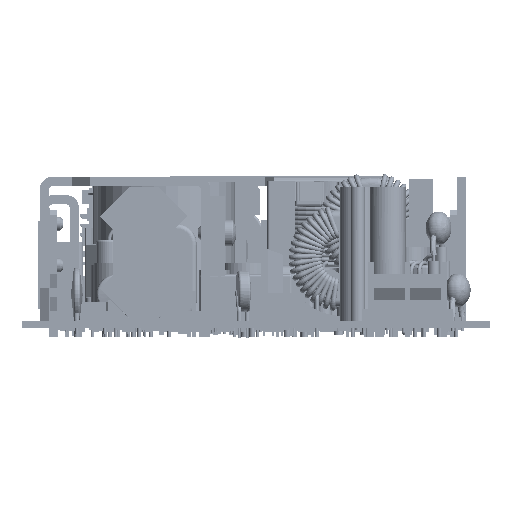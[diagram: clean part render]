
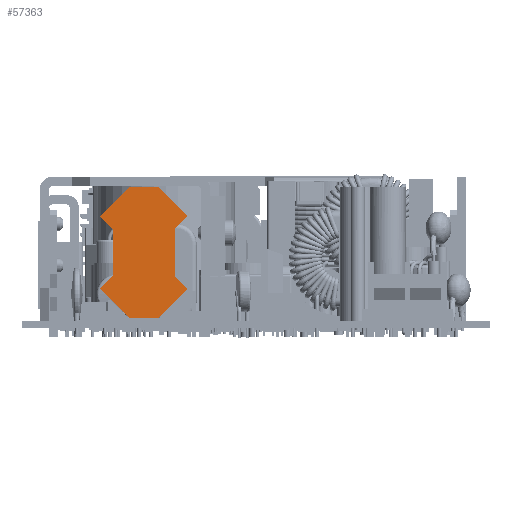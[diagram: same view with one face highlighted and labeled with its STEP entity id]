
A CAD part, left-side view. The second image highlights one B-rep face of the part: STEP entity #57363.
In plain terms, the highlighted planar face has unit normal (-1, 0, 0) as drawn and (0, 0, 1) by its records, which use the part's own axes.
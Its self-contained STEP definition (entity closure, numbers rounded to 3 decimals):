
#4585 = EDGE_CURVE ( 'NONE', #127076, #61434, #16035, .T. ) ;
#9040 = VECTOR ( 'NONE', #190603, 1000. ) ;
#10621 = LINE ( 'NONE', #192542, #150344 ) ;
#11301 = VERTEX_POINT ( 'NONE', #170077 ) ;
#13036 = CARTESIAN_POINT ( 'NONE',  ( 3.175, 28.5, 9.3 ) ) ;
#14133 = VERTEX_POINT ( 'NONE', #215319 ) ;
#15706 = VECTOR ( 'NONE', #58097, 1000. ) ;
#16035 = LINE ( 'NONE', #16216, #107213 ) ;
#16055 = CARTESIAN_POINT ( 'NONE',  ( -9.525, 6.35, 9.3 ) ) ;
#16216 = CARTESIAN_POINT ( 'NONE',  ( 9.525, 22.15, 9.3 ) ) ;
#21124 = EDGE_CURVE ( 'NONE', #56614, #70101, #144996, .T. ) ;
#22704 = VECTOR ( 'NONE', #86338, 1000. ) ;
#24822 = CARTESIAN_POINT ( 'NONE',  ( -3.175, 28.5, 9.3 ) ) ;
#27668 = VECTOR ( 'NONE', #37392, 1000. ) ;
#31333 = DIRECTION ( 'NONE',  ( -0.707, 0.707, 0. ) ) ;
#33423 = VERTEX_POINT ( 'NONE', #180826 ) ;
#34355 = DIRECTION ( 'NONE',  ( 0., 0., -1. ) ) ;
#34485 = VERTEX_POINT ( 'NONE', #86208 ) ;
#37392 = DIRECTION ( 'NONE',  ( -1., 0., 0. ) ) ;
#37462 = FACE_OUTER_BOUND ( 'NONE', #111441, .T. ) ;
#42400 = VECTOR ( 'NONE', #199618, 1000. ) ;
#43346 = LINE ( 'NONE', #176913, #183074 ) ;
#43705 = AXIS2_PLACEMENT_3D ( 'NONE', #16055, #34355, #161819 ) ;
#50707 = LINE ( 'NONE', #13036, #141892 ) ;
#53956 = EDGE_CURVE ( 'NONE', #184878, #14133, #216426, .T. ) ;
#56614 = VERTEX_POINT ( 'NONE', #155027 ) ;
#57148 = EDGE_CURVE ( 'NONE', #33423, #204124, #105956, .T. ) ;
#57363 = ADVANCED_FACE ( 'NONE', ( #37462 ), #143532, .F. ) ;
#57772 = DIRECTION ( 'NONE',  ( -0.707, -0.707, 0. ) ) ;
#58097 = DIRECTION ( 'NONE',  ( 0., 1., 0. ) ) ;
#58232 = ORIENTED_EDGE ( 'NONE', *, *, #21124, .T. ) ;
#61434 = VERTEX_POINT ( 'NONE', #147265 ) ;
#63151 = CARTESIAN_POINT ( 'NONE',  ( -3.175, 0., 9.3 ) ) ;
#65634 = EDGE_CURVE ( 'NONE', #14133, #11301, #43346, .T. ) ;
#70101 = VERTEX_POINT ( 'NONE', #125427 ) ;
#72010 = ORIENTED_EDGE ( 'NONE', *, *, #198996, .T. ) ;
#75367 = ORIENTED_EDGE ( 'NONE', *, *, #179667, .T. ) ;
#86019 = CARTESIAN_POINT ( 'NONE',  ( 3.175, 28.5, 9.3 ) ) ;
#86208 = CARTESIAN_POINT ( 'NONE',  ( -9.525, 6.35, 9.3 ) ) ;
#86338 = DIRECTION ( 'NONE',  ( -0.707, -0.707, 0. ) ) ;
#90516 = CARTESIAN_POINT ( 'NONE',  ( 9.525, 6.35, 9.3 ) ) ;
#90737 = ORIENTED_EDGE ( 'NONE', *, *, #142297, .T. ) ;
#91790 = DIRECTION ( 'NONE',  ( 0.707, -0.707, 0. ) ) ;
#92440 = EDGE_CURVE ( 'NONE', #231567, #34485, #179397, .T. ) ;
#97597 = ORIENTED_EDGE ( 'NONE', *, *, #126310, .T. ) ;
#103532 = LINE ( 'NONE', #183477, #200509 ) ;
#105956 = LINE ( 'NONE', #63151, #9040 ) ;
#106848 = ORIENTED_EDGE ( 'NONE', *, *, #57148, .T. ) ;
#107213 = VECTOR ( 'NONE', #161987, 1000. ) ;
#111441 = EDGE_LOOP ( 'NONE', ( #72010, #106848, #90737, #58232, #218073, #175707, #75367, #97597, #158359, #119287, #128733, #151258 ) ) ;
#119243 = DIRECTION ( 'NONE',  ( 0., -1., 0. ) ) ;
#119287 = ORIENTED_EDGE ( 'NONE', *, *, #65634, .T. ) ;
#125427 = CARTESIAN_POINT ( 'NONE',  ( 6.75, 9.125, 9.3 ) ) ;
#126310 = EDGE_CURVE ( 'NONE', #196019, #184878, #130447, .T. ) ;
#126591 = EDGE_CURVE ( 'NONE', #11301, #231567, #10621, .T. ) ;
#127076 = VERTEX_POINT ( 'NONE', #156390 ) ;
#128047 = VECTOR ( 'NONE', #213428, 1000. ) ;
#128461 = CARTESIAN_POINT ( 'NONE',  ( 3.175, 0., 9.3 ) ) ;
#128733 = ORIENTED_EDGE ( 'NONE', *, *, #126591, .T. ) ;
#130246 = CARTESIAN_POINT ( 'NONE',  ( -9.525, 6.35, 9.3 ) ) ;
#130447 = LINE ( 'NONE', #165614, #27668 ) ;
#130906 = VECTOR ( 'NONE', #57772, 1000. ) ;
#133769 = LINE ( 'NONE', #195207, #128047 ) ;
#141892 = VECTOR ( 'NONE', #31333, 1000. ) ;
#142297 = EDGE_CURVE ( 'NONE', #204124, #56614, #133769, .T. ) ;
#143532 = PLANE ( 'NONE',  #43705 ) ;
#144996 = LINE ( 'NONE', #90516, #42400 ) ;
#147265 = CARTESIAN_POINT ( 'NONE',  ( 9.525, 22.15, 9.3 ) ) ;
#150344 = VECTOR ( 'NONE', #119243, 1000. ) ;
#151258 = ORIENTED_EDGE ( 'NONE', *, *, #92440, .T. ) ;
#155027 = CARTESIAN_POINT ( 'NONE',  ( 9.525, 6.35, 9.3 ) ) ;
#155357 = LINE ( 'NONE', #167178, #15706 ) ;
#156390 = CARTESIAN_POINT ( 'NONE',  ( 6.75, 19.375, 9.3 ) ) ;
#158359 = ORIENTED_EDGE ( 'NONE', *, *, #53956, .T. ) ;
#161819 = DIRECTION ( 'NONE',  ( -1., 0., 0. ) ) ;
#161987 = DIRECTION ( 'NONE',  ( 0.707, 0.707, 0. ) ) ;
#163278 = CARTESIAN_POINT ( 'NONE',  ( -6.75, 9.125, 9.3 ) ) ;
#165614 = CARTESIAN_POINT ( 'NONE',  ( -3.175, 28.5, 9.3 ) ) ;
#167178 = CARTESIAN_POINT ( 'NONE',  ( 6.75, 19.375, 9.3 ) ) ;
#170077 = CARTESIAN_POINT ( 'NONE',  ( -6.75, 19.375, 9.3 ) ) ;
#175707 = ORIENTED_EDGE ( 'NONE', *, *, #4585, .T. ) ;
#176913 = CARTESIAN_POINT ( 'NONE',  ( -9.525, 22.15, 9.3 ) ) ;
#179397 = LINE ( 'NONE', #130246, #130906 ) ;
#179667 = EDGE_CURVE ( 'NONE', #61434, #196019, #50707, .T. ) ;
#180526 = EDGE_CURVE ( 'NONE', #70101, #127076, #155357, .T. ) ;
#180826 = CARTESIAN_POINT ( 'NONE',  ( -3.175, 0., 9.3 ) ) ;
#183074 = VECTOR ( 'NONE', #195174, 1000. ) ;
#183477 = CARTESIAN_POINT ( 'NONE',  ( -3.175, 0., 9.3 ) ) ;
#184878 = VERTEX_POINT ( 'NONE', #24822 ) ;
#190603 = DIRECTION ( 'NONE',  ( 1., 0., 0. ) ) ;
#192542 = CARTESIAN_POINT ( 'NONE',  ( -6.75, 19.375, 9.3 ) ) ;
#195174 = DIRECTION ( 'NONE',  ( 0.707, -0.707, 0. ) ) ;
#195207 = CARTESIAN_POINT ( 'NONE',  ( 3.175, 0., 9.3 ) ) ;
#196019 = VERTEX_POINT ( 'NONE', #86019 ) ;
#198996 = EDGE_CURVE ( 'NONE', #34485, #33423, #103532, .T. ) ;
#199618 = DIRECTION ( 'NONE',  ( -0.707, 0.707, 0. ) ) ;
#200509 = VECTOR ( 'NONE', #91790, 1000. ) ;
#204124 = VERTEX_POINT ( 'NONE', #128461 ) ;
#213428 = DIRECTION ( 'NONE',  ( 0.707, 0.707, 0. ) ) ;
#215319 = CARTESIAN_POINT ( 'NONE',  ( -9.525, 22.15, 9.3 ) ) ;
#216426 = LINE ( 'NONE', #232004, #22704 ) ;
#218073 = ORIENTED_EDGE ( 'NONE', *, *, #180526, .T. ) ;
#231567 = VERTEX_POINT ( 'NONE', #163278 ) ;
#232004 = CARTESIAN_POINT ( 'NONE',  ( -3.175, 28.5, 9.3 ) ) ;
